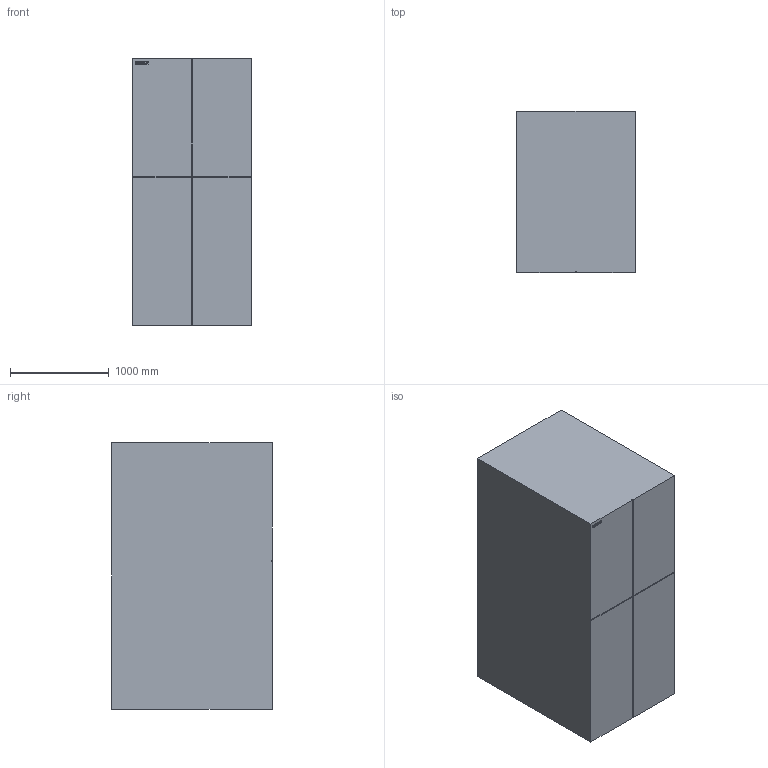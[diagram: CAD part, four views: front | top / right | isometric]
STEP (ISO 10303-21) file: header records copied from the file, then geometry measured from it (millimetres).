
FILE_DESCRIPTION(/* description */ (''),/* implementation_level */ '2;1');
FILE_NAME(/* name */ 'C:\ProgramData\Autodesk\RVT 2016\Libraries\Germany\__Siemens Entwicklung 8DA 8DB\DWG\Siemens_MV_switchgear_gas-insulated_8DA10_40_5kV - Double panel (bus sectionalizer) LV1200.stp',/* time_stamp */ '2018-03-14T11:55:57+01:00',/* author */ ('prange'),/* organization */ (''),/* preprocessor_version */ 'ST-DEVELOPER v16.1',/* originating_system */ 'AutoCAD Mechanical',/* authorisation */ '');
FILE_SCHEMA (('AUTOMOTIVE_DESIGN { 1 0 10303 214 3 1 1 }'));
Length unit declared in the file: millimetre
Products named in the file (2): 8DA - Basic - Test-568500-_3D_; Product
Assembly tree (1 placements, depth 2):
  Product
    8DA - Basic - Test-568500-_3D_
Bounding box: 1200 x 1626.5 x 2700 mm (x, y, z)
Volume: 5264614750 mm3; surface area: 19240912.8 mm2
Topology: 2 solids, 9 shells, 31 faces, 223 edges, 243 vertices
Faces by surface type: plane 31
Entity records: 2140 total; most frequent: CARTESIAN_POINT 500, DIRECTION 291, ORIENTED_EDGE 243, LINE 223, VECTOR 223, EDGE_CURVE 183, VERTEX_POINT 163, STYLED_ITEM 49
